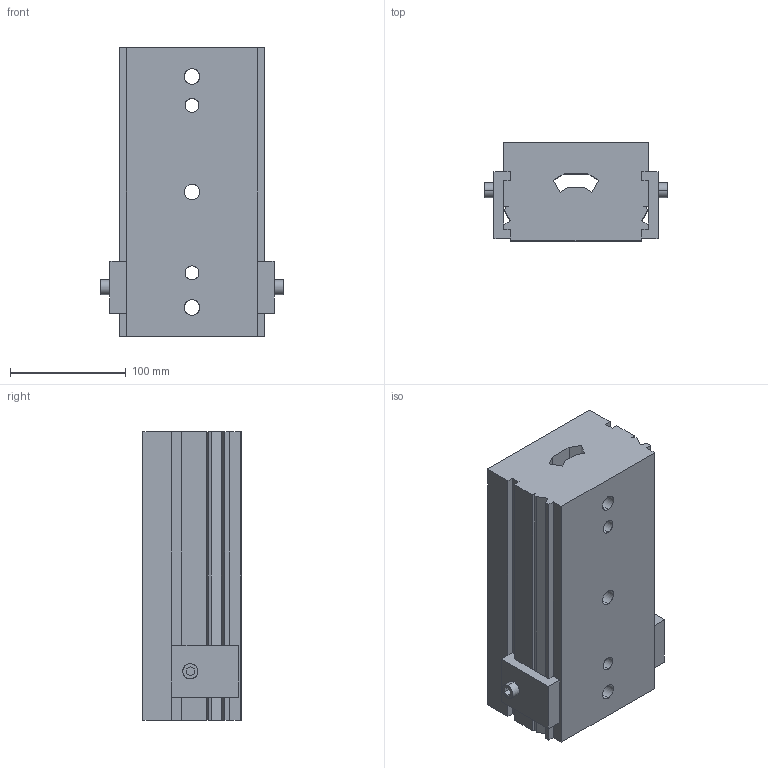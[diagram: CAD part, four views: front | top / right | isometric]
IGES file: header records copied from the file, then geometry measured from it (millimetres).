
Start section: START RECORD GO HERE.
Global section: file name: A945-01-1225-01-S-BC.igs; native system: DASSAULT SYSTEMES CATIA V5 R20 - www.3ds.com; preprocessor: CATIA Version 5 Release 20 ; author: Utente; organization: NB04-ASUS; date: 20200417.111747; units: millimetre
Bounding box: 158 x 85 x 250 mm (x, y, z)
Surface area: 177711.5 mm2 (no closed solid volume)
Topology: 0 solids, 0 shells, 104 faces, 588 edges, 588 vertices
Faces by surface type: extrusion 80, revolution 24
